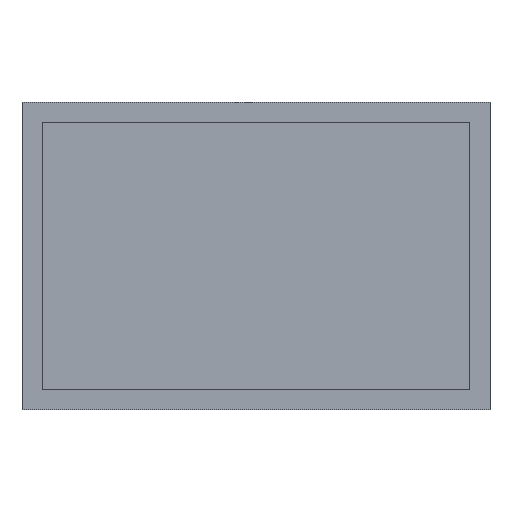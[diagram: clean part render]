
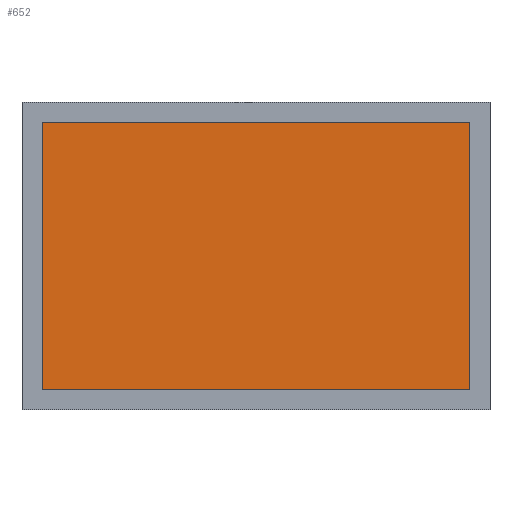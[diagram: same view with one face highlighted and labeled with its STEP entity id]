
A CAD part, top view. The second image highlights one B-rep face of the part: STEP entity #652.
In plain terms, the highlighted planar face has unit normal (0, 0, 1).
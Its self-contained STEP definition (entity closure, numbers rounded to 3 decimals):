
#282 = PLANE('',#283);
#283 = AXIS2_PLACEMENT_3D('',#284,#285,#286);
#284 = CARTESIAN_POINT('',(3.,3.,2.));
#285 = DIRECTION('',(-0.,1.,0.));
#286 = DIRECTION('',(0.,0.,1.));
#308 = PLANE('',#309);
#309 = AXIS2_PLACEMENT_3D('',#310,#311,#312);
#310 = CARTESIAN_POINT('',(3.,3.,2.));
#311 = DIRECTION('',(1.,0.,-0.));
#312 = DIRECTION('',(0.,0.,1.));
#334 = PLANE('',#335);
#335 = AXIS2_PLACEMENT_3D('',#336,#337,#338);
#336 = CARTESIAN_POINT('',(3.,42.1,2.));
#337 = DIRECTION('',(-0.,1.,0.));
#338 = DIRECTION('',(0.,0.,1.));
#358 = PLANE('',#359);
#359 = AXIS2_PLACEMENT_3D('',#360,#361,#362);
#360 = CARTESIAN_POINT('',(65.6,3.,2.));
#361 = DIRECTION('',(1.,0.,-0.));
#362 = DIRECTION('',(0.,0.,1.));
#456 = VERTEX_POINT('',#457);
#457 = CARTESIAN_POINT('',(65.6,3.,2.));
#478 = EDGE_CURVE('',#479,#456,#481,.T.);
#479 = VERTEX_POINT('',#480);
#480 = CARTESIAN_POINT('',(3.,3.,2.));
#481 = SURFACE_CURVE('',#482,(#486,#493),.PCURVE_S1.);
#482 = LINE('',#483,#484);
#483 = CARTESIAN_POINT('',(3.,3.,2.));
#484 = VECTOR('',#485,1.);
#485 = DIRECTION('',(1.,0.,-0.));
#486 = PCURVE('',#282,#487);
#487 = DEFINITIONAL_REPRESENTATION('',(#488),#492);
#488 = LINE('',#489,#490);
#489 = CARTESIAN_POINT('',(0.,0.));
#490 = VECTOR('',#491,1.);
#491 = DIRECTION('',(0.,1.));
#492 = ( GEOMETRIC_REPRESENTATION_CONTEXT(2) 
PARAMETRIC_REPRESENTATION_CONTEXT() REPRESENTATION_CONTEXT('2D SPACE',''
  ) );
#493 = PCURVE('',#494,#499);
#494 = PLANE('',#495);
#495 = AXIS2_PLACEMENT_3D('',#496,#497,#498);
#496 = CARTESIAN_POINT('',(3.,3.,2.));
#497 = DIRECTION('',(0.,0.,1.));
#498 = DIRECTION('',(1.,0.,-0.));
#499 = DEFINITIONAL_REPRESENTATION('',(#500),#504);
#500 = LINE('',#501,#502);
#501 = CARTESIAN_POINT('',(0.,0.));
#502 = VECTOR('',#503,1.);
#503 = DIRECTION('',(1.,0.));
#504 = ( GEOMETRIC_REPRESENTATION_CONTEXT(2) 
PARAMETRIC_REPRESENTATION_CONTEXT() REPRESENTATION_CONTEXT('2D SPACE',''
  ) );
#532 = EDGE_CURVE('',#456,#533,#535,.T.);
#533 = VERTEX_POINT('',#534);
#534 = CARTESIAN_POINT('',(65.6,42.1,2.));
#535 = SURFACE_CURVE('',#536,(#540,#547),.PCURVE_S1.);
#536 = LINE('',#537,#538);
#537 = CARTESIAN_POINT('',(65.6,3.,2.));
#538 = VECTOR('',#539,1.);
#539 = DIRECTION('',(-0.,1.,0.));
#540 = PCURVE('',#358,#541);
#541 = DEFINITIONAL_REPRESENTATION('',(#542),#546);
#542 = LINE('',#543,#544);
#543 = CARTESIAN_POINT('',(0.,0.));
#544 = VECTOR('',#545,1.);
#545 = DIRECTION('',(0.,-1.));
#546 = ( GEOMETRIC_REPRESENTATION_CONTEXT(2) 
PARAMETRIC_REPRESENTATION_CONTEXT() REPRESENTATION_CONTEXT('2D SPACE',''
  ) );
#547 = PCURVE('',#494,#548);
#548 = DEFINITIONAL_REPRESENTATION('',(#549),#553);
#549 = LINE('',#550,#551);
#550 = CARTESIAN_POINT('',(62.6,0.));
#551 = VECTOR('',#552,1.);
#552 = DIRECTION('',(0.,1.));
#553 = ( GEOMETRIC_REPRESENTATION_CONTEXT(2) 
PARAMETRIC_REPRESENTATION_CONTEXT() REPRESENTATION_CONTEXT('2D SPACE',''
  ) );
#581 = EDGE_CURVE('',#582,#533,#584,.T.);
#582 = VERTEX_POINT('',#583);
#583 = CARTESIAN_POINT('',(3.,42.1,2.));
#584 = SURFACE_CURVE('',#585,(#589,#596),.PCURVE_S1.);
#585 = LINE('',#586,#587);
#586 = CARTESIAN_POINT('',(3.,42.1,2.));
#587 = VECTOR('',#588,1.);
#588 = DIRECTION('',(1.,0.,-0.));
#589 = PCURVE('',#334,#590);
#590 = DEFINITIONAL_REPRESENTATION('',(#591),#595);
#591 = LINE('',#592,#593);
#592 = CARTESIAN_POINT('',(0.,0.));
#593 = VECTOR('',#594,1.);
#594 = DIRECTION('',(0.,1.));
#595 = ( GEOMETRIC_REPRESENTATION_CONTEXT(2) 
PARAMETRIC_REPRESENTATION_CONTEXT() REPRESENTATION_CONTEXT('2D SPACE',''
  ) );
#596 = PCURVE('',#494,#597);
#597 = DEFINITIONAL_REPRESENTATION('',(#598),#602);
#598 = LINE('',#599,#600);
#599 = CARTESIAN_POINT('',(0.,39.1));
#600 = VECTOR('',#601,1.);
#601 = DIRECTION('',(1.,0.));
#602 = ( GEOMETRIC_REPRESENTATION_CONTEXT(2) 
PARAMETRIC_REPRESENTATION_CONTEXT() REPRESENTATION_CONTEXT('2D SPACE',''
  ) );
#630 = EDGE_CURVE('',#479,#582,#631,.T.);
#631 = SURFACE_CURVE('',#632,(#636,#643),.PCURVE_S1.);
#632 = LINE('',#633,#634);
#633 = CARTESIAN_POINT('',(3.,3.,2.));
#634 = VECTOR('',#635,1.);
#635 = DIRECTION('',(-0.,1.,0.));
#636 = PCURVE('',#308,#637);
#637 = DEFINITIONAL_REPRESENTATION('',(#638),#642);
#638 = LINE('',#639,#640);
#639 = CARTESIAN_POINT('',(0.,0.));
#640 = VECTOR('',#641,1.);
#641 = DIRECTION('',(0.,-1.));
#642 = ( GEOMETRIC_REPRESENTATION_CONTEXT(2) 
PARAMETRIC_REPRESENTATION_CONTEXT() REPRESENTATION_CONTEXT('2D SPACE',''
  ) );
#643 = PCURVE('',#494,#644);
#644 = DEFINITIONAL_REPRESENTATION('',(#645),#649);
#645 = LINE('',#646,#647);
#646 = CARTESIAN_POINT('',(0.,0.));
#647 = VECTOR('',#648,1.);
#648 = DIRECTION('',(0.,1.));
#649 = ( GEOMETRIC_REPRESENTATION_CONTEXT(2) 
PARAMETRIC_REPRESENTATION_CONTEXT() REPRESENTATION_CONTEXT('2D SPACE',''
  ) );
#652 = ADVANCED_FACE('',(#653),#494,.T.);
#653 = FACE_BOUND('',#654,.T.);
#654 = EDGE_LOOP('',(#655,#656,#657,#658));
#655 = ORIENTED_EDGE('',*,*,#630,.F.);
#656 = ORIENTED_EDGE('',*,*,#478,.T.);
#657 = ORIENTED_EDGE('',*,*,#532,.T.);
#658 = ORIENTED_EDGE('',*,*,#581,.F.);
